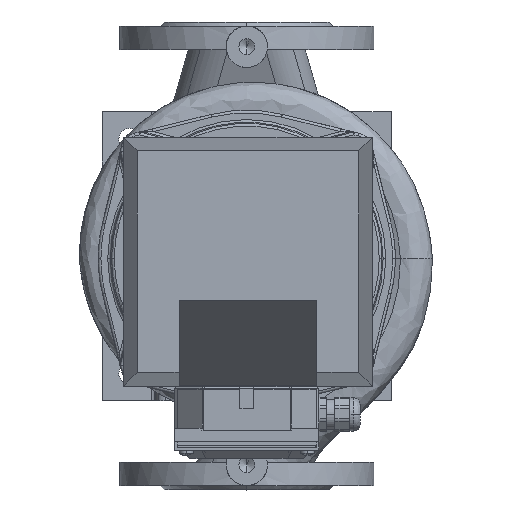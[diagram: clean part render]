
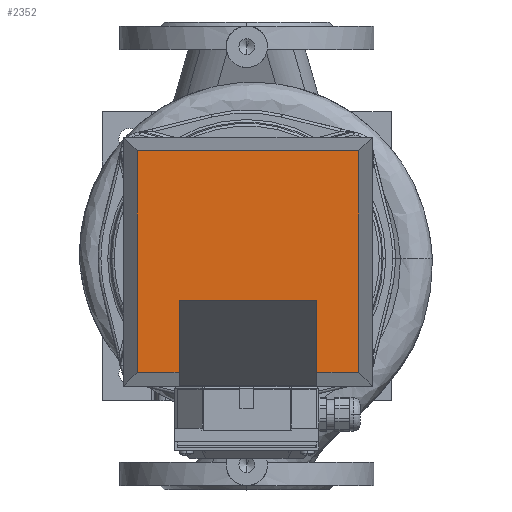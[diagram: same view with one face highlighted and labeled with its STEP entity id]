
A CAD part, top view. The second image highlights one B-rep face of the part: STEP entity #2352.
In plain terms, the highlighted planar face has unit normal (0, 0, 1) as drawn and (0, 1, 0) by its records, which use the part's own axes.
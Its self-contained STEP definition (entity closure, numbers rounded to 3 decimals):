
#2352=ADVANCED_FACE('',(#4351),#4352,.T.);
#2362=EDGE_CURVE('',#4364,#4367,#4368,.T.);
#4351=FACE_OUTER_BOUND('',#10860,.T.);
#4352=PLANE('',#10861);
#4364=VERTEX_POINT('',#10874);
#4367=VERTEX_POINT('',#10879);
#4368=LINE('',#10880,#10881);
#10860=EDGE_LOOP('',(#18832,#18833,#18834,#18835,#18836,#18837,#18838,#18839));
#10861=AXIS2_PLACEMENT_3D('',#18840,#18841,#18842);
#10874=CARTESIAN_POINT('',(50.0,114.0,118.64));
#10879=CARTESIAN_POINT('',(50.0,114.0,171.0));
#10880=CARTESIAN_POINT('',(50.0,114.0,90.179));
#10881=VECTOR('',#18868,1.0);
#18832=ORIENTED_EDGE('',*,*,#2362,.T.);
#18833=ORIENTED_EDGE('',*,*,#32765,.F.);
#18834=ORIENTED_EDGE('',*,*,#32773,.F.);
#18835=ORIENTED_EDGE('',*,*,#32775,.F.);
#18836=ORIENTED_EDGE('',*,*,#32767,.F.);
#18837=ORIENTED_EDGE('',*,*,#32761,.F.);
#18838=ORIENTED_EDGE('',*,*,#32754,.T.);
#18839=ORIENTED_EDGE('',*,*,#32757,.T.);
#18840=CARTESIAN_POINT('',(0.0,114.0,0.0));
#18841=DIRECTION('',(0.0,1.0,-0.0));
#18842=DIRECTION('',(-1.0,0.0,0.0));
#18868=DIRECTION('',(0.0,0.0,1.0));
#32754=EDGE_CURVE('',#51664,#51666,#51668,.T.);
#32757=EDGE_CURVE('',#51666,#4364,#51671,.T.);
#32761=EDGE_CURVE('',#51664,#51675,#51676,.T.);
#32765=EDGE_CURVE('',#51681,#4367,#51683,.T.);
#32767=EDGE_CURVE('',#51675,#51685,#51686,.T.);
#32773=EDGE_CURVE('',#51691,#51681,#51693,.T.);
#32775=EDGE_CURVE('',#51685,#51691,#51695,.T.);
#51664=VERTEX_POINT('',#60936);
#51666=VERTEX_POINT('',#60939);
#51668=LINE('',#60942,#60943);
#51671=LINE('',#60947,#60948);
#51675=VERTEX_POINT('',#60953);
#51676=LINE('',#60954,#60955);
#51681=VERTEX_POINT('',#60962);
#51683=LINE('',#60965,#60966);
#51685=VERTEX_POINT('',#60968);
#51686=LINE('',#60969,#60970);
#51691=VERTEX_POINT('',#60978);
#51693=LINE('',#60981,#60982);
#51695=LINE('',#60984,#60985);
#60936=CARTESIAN_POINT('',(-50.0,114.0,171.0));
#60939=CARTESIAN_POINT('',(-50.0,114.0,118.64));
#60942=CARTESIAN_POINT('',(-50.0,114.0,90.179));
#60943=VECTOR('',#71082,1.0);
#60947=CARTESIAN_POINT('',(25.0,114.0,118.64));
#60948=VECTOR('',#71084,1.0);
#60953=CARTESIAN_POINT('',(-80.5,114.0,171.0));
#60954=CARTESIAN_POINT('',(45.25,114.0,171.0));
#60955=VECTOR('',#71086,1.0);
#60962=CARTESIAN_POINT('',(80.5,114.0,171.0));
#60965=CARTESIAN_POINT('',(45.25,114.0,171.0));
#60966=VECTOR('',#71090,1.0);
#60968=CARTESIAN_POINT('',(-80.5,114.0,10.0));
#60969=CARTESIAN_POINT('',(-80.5,114.0,0.0));
#60970=VECTOR('',#71091,1.0);
#60978=CARTESIAN_POINT('',(80.5,114.0,10.0));
#60981=CARTESIAN_POINT('',(80.5,114.0,0.0));
#60982=VECTOR('',#71096,1.0);
#60984=CARTESIAN_POINT('',(45.25,114.0,10.0));
#60985=VECTOR('',#71097,1.0);
#71082=DIRECTION('',(-0.0,0.0,-1.0));
#71084=DIRECTION('',(1.0,-0.0,0.0));
#71086=DIRECTION('',(-1.0,0.0,-0.0));
#71090=DIRECTION('',(-1.0,0.0,-0.0));
#71091=DIRECTION('',(-0.0,-0.0,-1.0));
#71096=DIRECTION('',(-0.0,0.0,1.0));
#71097=DIRECTION('',(1.0,-0.0,-0.0));
